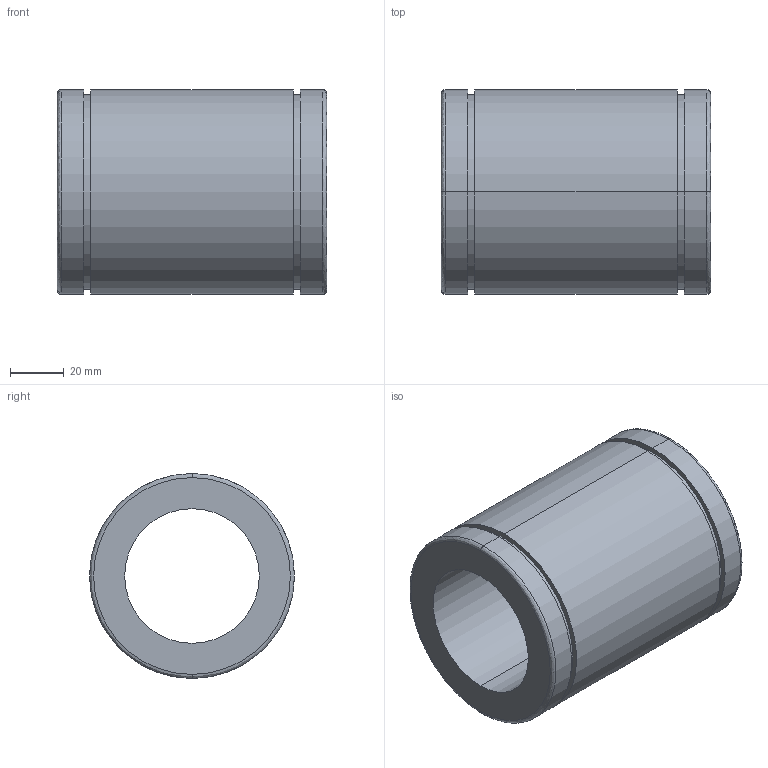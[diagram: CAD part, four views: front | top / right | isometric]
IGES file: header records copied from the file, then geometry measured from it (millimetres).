
Start section: 3D InterOp IGES (Version 21 0 1), Spatial Corp. Copyright (c) 1999-2007.
Global section: file name: N-50UU.igs; native system: Spatial Corp.; preprocessor: 3D InterOp GENERIC/IGES 3.0; author: Noname; organization: Noname; date: 20220311.153510; units: millimetre
Bounding box: 100 x 76 x 76 mm (x, y, z)
Surface area: 46215 mm2 (no closed solid volume)
Topology: 0 solids, 0 shells, 22 faces, 88 edges, 88 vertices
Faces by surface type: revolution 16, extrusion 6
